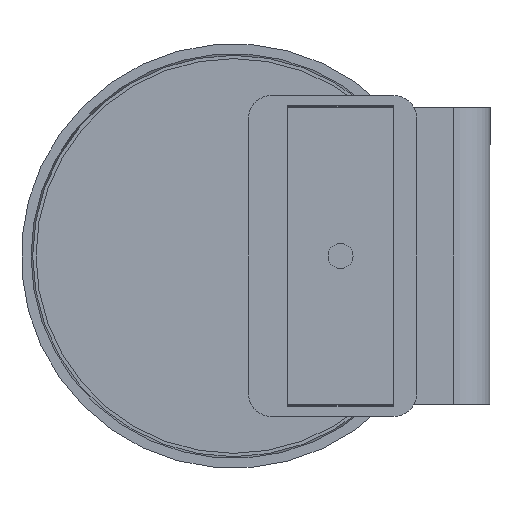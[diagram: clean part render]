
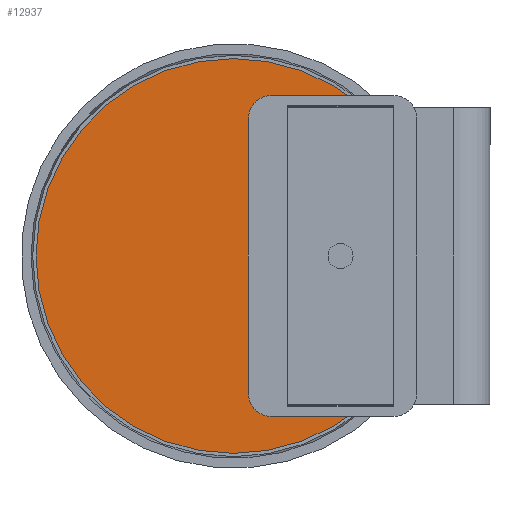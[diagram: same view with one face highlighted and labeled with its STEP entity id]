
A CAD part, front view. The second image highlights one B-rep face of the part: STEP entity #12937.
In plain terms, the highlighted planar face has unit normal (0, -1, 0).
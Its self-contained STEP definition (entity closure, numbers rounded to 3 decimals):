
#416 = CARTESIAN_POINT ( 'NONE',  ( 60., -4.5, 0. ) ) ;
#830 = AXIS2_PLACEMENT_3D ( 'NONE', #11376, #6830, #5813 ) ;
#843 = EDGE_CURVE ( 'NONE', #8833, #3320, #13291, .T. ) ;
#905 = CARTESIAN_POINT ( 'NONE',  ( 0., -4.5, 0. ) ) ;
#940 = EDGE_CURVE ( 'NONE', #3320, #8833, #12321, .T. ) ;
#974 = DIRECTION ( 'NONE',  ( -1., 0., 0. ) ) ;
#1070 = AXIS2_PLACEMENT_3D ( 'NONE', #14871, #9021, #2070 ) ;
#2070 = DIRECTION ( 'NONE',  ( -1., 0., 0. ) ) ;
#3320 = VERTEX_POINT ( 'NONE', #3421 ) ;
#3421 = CARTESIAN_POINT ( 'NONE',  ( -60., -4.5, 0. ) ) ;
#4436 = ORIENTED_EDGE ( 'NONE', *, *, #940, .F. ) ;
#5560 = PLANE ( 'NONE',  #1070 ) ;
#5813 = DIRECTION ( 'NONE',  ( -1., 0., 0. ) ) ;
#6830 = DIRECTION ( 'NONE',  ( 0., 1., 0. ) ) ;
#8833 = VERTEX_POINT ( 'NONE', #416 ) ;
#9021 = DIRECTION ( 'NONE',  ( 0., 1., 0. ) ) ;
#10827 = AXIS2_PLACEMENT_3D ( 'NONE', #905, #14835, #974 ) ;
#11376 = CARTESIAN_POINT ( 'NONE',  ( 0., -4.5, 0. ) ) ;
#11846 = EDGE_LOOP ( 'NONE', ( #4436, #14734 ) ) ;
#12321 = CIRCLE ( 'NONE', #10827, 60. ) ;
#12937 = ADVANCED_FACE ( 'NONE', ( #15088 ), #5560, .F. ) ;
#13291 = CIRCLE ( 'NONE', #830, 60. ) ;
#14734 = ORIENTED_EDGE ( 'NONE', *, *, #843, .F. ) ;
#14835 = DIRECTION ( 'NONE',  ( 0., 1., 0. ) ) ;
#14871 = CARTESIAN_POINT ( 'NONE',  ( 0., -4.5, 0. ) ) ;
#15088 = FACE_OUTER_BOUND ( 'NONE', #11846, .T. ) ;
